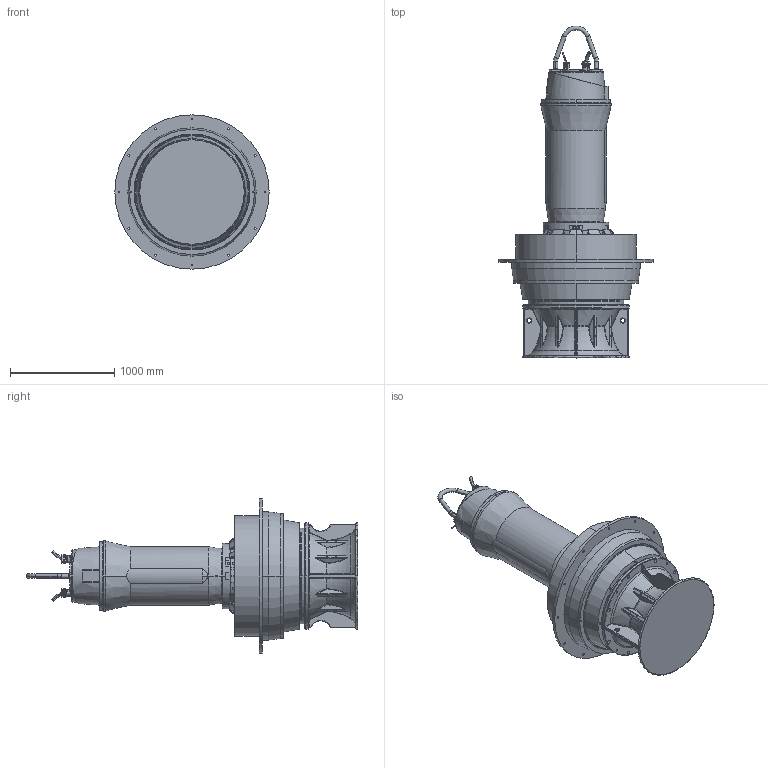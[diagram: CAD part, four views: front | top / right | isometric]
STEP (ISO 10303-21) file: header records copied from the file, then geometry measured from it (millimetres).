
FILE_DESCRIPTION (( 'STEP AP214' ), '1' );
FILE_NAME ('PE6_AFLX1203_FU_C_NG2.STEP', '2017-04-21T08:33:44', ( '' ), ( '' ), 'SwSTEP 2.0', 'SolidWorks 2017', '' );
FILE_SCHEMA (( 'AUTOMOTIVE_DESIGN' ));
Length unit declared in the file: millimetre
Products named in the file (1): PE6_AFLX1203_FU_C_NG2
Bounding box: 1480 x 3184 x 1480 mm (x, y, z)
Volume: 1346051531.3 mm3; surface area: 13917446.8 mm2
Topology: 4 solids, 25 shells, 2676 faces, 6446 edges, 3740 vertices
Faces by surface type: bspline 676, plane 666, cylinder 581, cone 325, torus 309, sphere 119
Entity records: 282569 total; most frequent: CARTESIAN_POINT 196448, ORIENTED_EDGE 12524, DIRECTION 10855, EDGE_CURVE 6262, AXIS2_PLACEMENT_3D 4448, VERTEX_POINT 3739, EDGE_LOOP 2891, UNCERTAINTY_MEASURE_WITH_UNIT 2682
